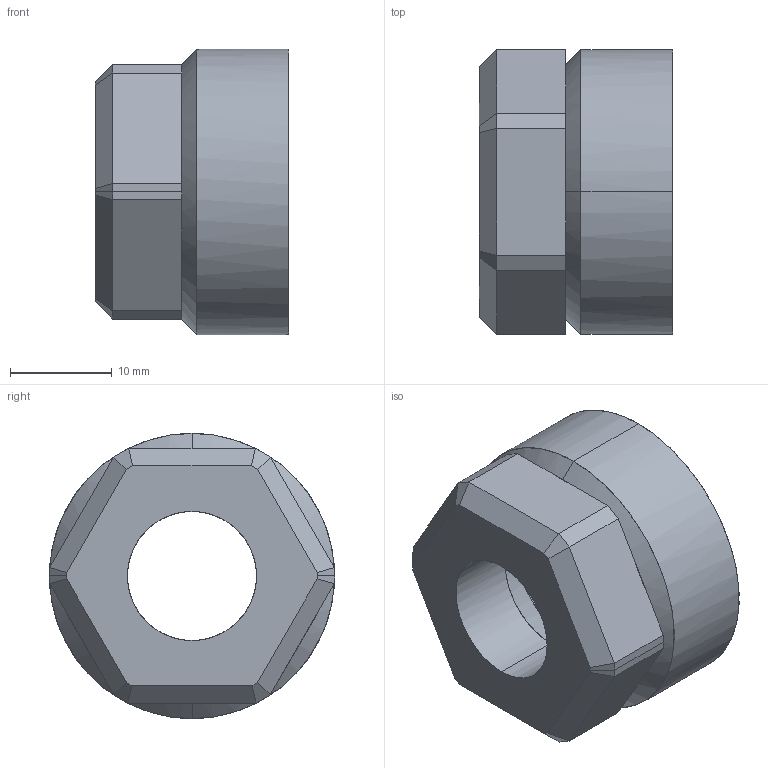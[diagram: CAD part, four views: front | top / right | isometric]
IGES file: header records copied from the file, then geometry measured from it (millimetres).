
Start section: Comment
Global section: file name: 65023 nut.igs; native system:  By Spatial Corp.; preprocessor: XPlus PS/IGES 3.0; author: sherline; organization: Title; date: 20201019.200904; units: inch
Bounding box: 19.05 x 28.07 x 28.07 mm (x, y, z)
Surface area: 3725.8 mm2 (no closed solid volume)
Topology: 0 solids, 0 shells, 61 faces, 272 edges, 272 vertices
Faces by surface type: bspline 61
